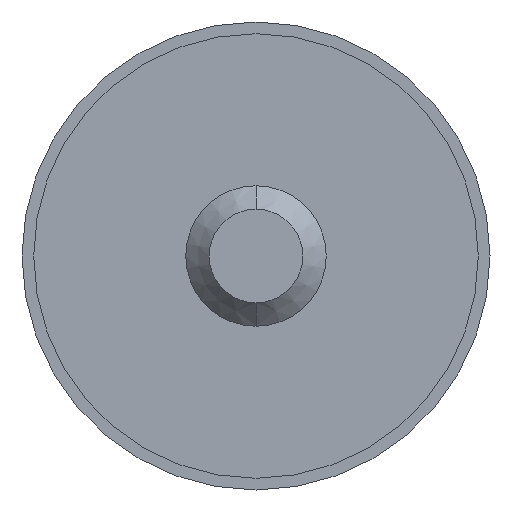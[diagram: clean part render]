
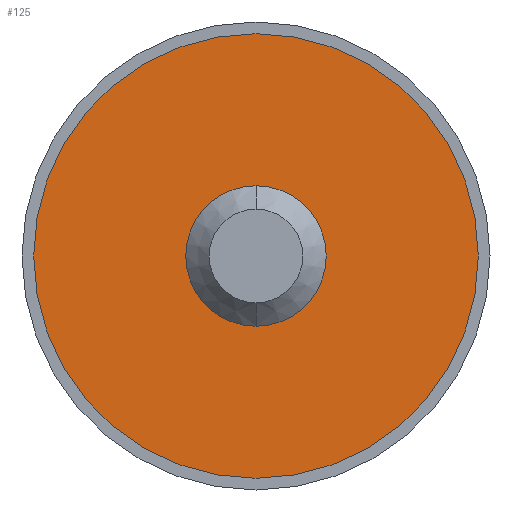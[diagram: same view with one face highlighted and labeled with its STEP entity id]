
A CAD part, front view. The second image highlights one B-rep face of the part: STEP entity #125.
In plain terms, the highlighted planar face has unit normal (0, -1, 0).
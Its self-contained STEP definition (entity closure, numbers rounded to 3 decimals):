
#55 = DIRECTION ( 'NONE',  ( 0., 1., 0. ) ) ;
#64 = AXIS2_PLACEMENT_3D ( 'NONE', #1563, #3687, #2147 ) ;
#96 = CARTESIAN_POINT ( 'NONE',  ( 0., -1., 0. ) ) ;
#125 = ADVANCED_FACE ( 'NONE', ( #856, #2100 ), #3393, .F. ) ;
#440 = ORIENTED_EDGE ( 'NONE', *, *, #743, .F. ) ;
#613 = AXIS2_PLACEMENT_3D ( 'NONE', #3501, #3236, #1406 ) ;
#692 = VERTEX_POINT ( 'NONE', #2153 ) ;
#743 = EDGE_CURVE ( 'NONE', #692, #3700, #1718, .T. ) ;
#856 = FACE_BOUND ( 'NONE', #1077, .T. ) ;
#910 = DIRECTION ( 'NONE',  ( 0., 1., 0. ) ) ;
#992 = AXIS2_PLACEMENT_3D ( 'NONE', #1235, #3120, #2449 ) ;
#1077 = EDGE_LOOP ( 'NONE', ( #3805, #2659 ) ) ;
#1091 = AXIS2_PLACEMENT_3D ( 'NONE', #96, #55, #2478 ) ;
#1218 = DIRECTION ( 'NONE',  ( 0., 0., 1. ) ) ;
#1235 = CARTESIAN_POINT ( 'NONE',  ( 0., -1., 0. ) ) ;
#1406 = DIRECTION ( 'NONE',  ( 0., 0., -1. ) ) ;
#1563 = CARTESIAN_POINT ( 'NONE',  ( 0., -1., 0. ) ) ;
#1718 = CIRCLE ( 'NONE', #2747, 9.5 ) ;
#1902 = EDGE_CURVE ( 'NONE', #2801, #2257, #2047, .T. ) ;
#1925 = CIRCLE ( 'NONE', #1091, 9.5 ) ;
#2047 = CIRCLE ( 'NONE', #64, 3. ) ;
#2069 = CARTESIAN_POINT ( 'NONE',  ( 0., -1., 3. ) ) ;
#2074 = CIRCLE ( 'NONE', #613, 3. ) ;
#2100 = FACE_OUTER_BOUND ( 'NONE', #2814, .T. ) ;
#2147 = DIRECTION ( 'NONE',  ( 0., 0., -1. ) ) ;
#2153 = CARTESIAN_POINT ( 'NONE',  ( 0., -1., -9.5 ) ) ;
#2257 = VERTEX_POINT ( 'NONE', #2069 ) ;
#2449 = DIRECTION ( 'NONE',  ( 0., 0., 1. ) ) ;
#2478 = DIRECTION ( 'NONE',  ( 0., 0., 1. ) ) ;
#2493 = CARTESIAN_POINT ( 'NONE',  ( 0., -1., 9.5 ) ) ;
#2659 = ORIENTED_EDGE ( 'NONE', *, *, #1902, .F. ) ;
#2747 = AXIS2_PLACEMENT_3D ( 'NONE', #2754, #910, #1218 ) ;
#2754 = CARTESIAN_POINT ( 'NONE',  ( 0., -1., 0. ) ) ;
#2801 = VERTEX_POINT ( 'NONE', #3463 ) ;
#2814 = EDGE_LOOP ( 'NONE', ( #3011, #440 ) ) ;
#3011 = ORIENTED_EDGE ( 'NONE', *, *, #3638, .F. ) ;
#3120 = DIRECTION ( 'NONE',  ( 0., 1., 0. ) ) ;
#3236 = DIRECTION ( 'NONE',  ( 0., -1., 0. ) ) ;
#3393 = PLANE ( 'NONE',  #992 ) ;
#3463 = CARTESIAN_POINT ( 'NONE',  ( 0., -1., -3. ) ) ;
#3489 = EDGE_CURVE ( 'NONE', #2257, #2801, #2074, .T. ) ;
#3501 = CARTESIAN_POINT ( 'NONE',  ( 0., -1., 0. ) ) ;
#3638 = EDGE_CURVE ( 'NONE', #3700, #692, #1925, .T. ) ;
#3687 = DIRECTION ( 'NONE',  ( 0., -1., 0. ) ) ;
#3700 = VERTEX_POINT ( 'NONE', #2493 ) ;
#3805 = ORIENTED_EDGE ( 'NONE', *, *, #3489, .F. ) ;
